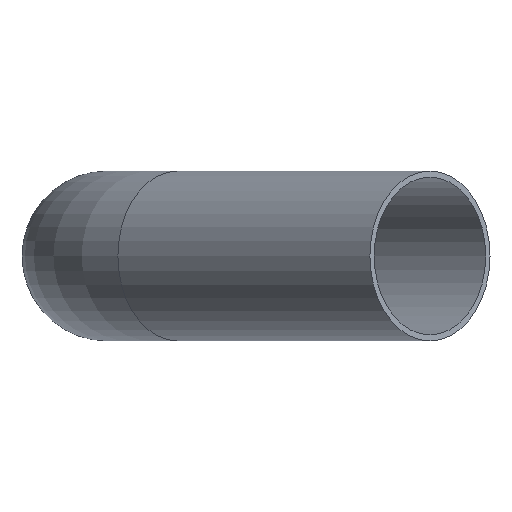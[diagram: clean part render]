
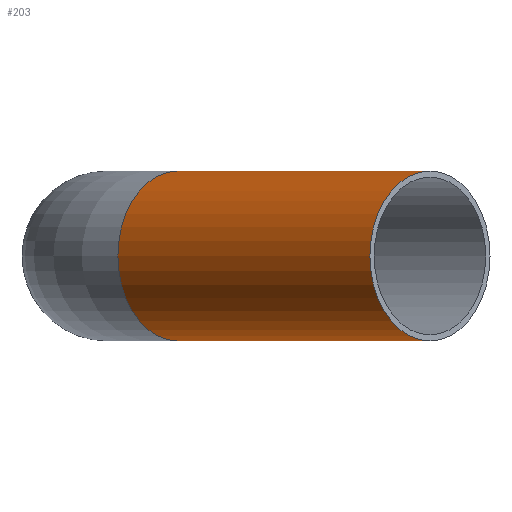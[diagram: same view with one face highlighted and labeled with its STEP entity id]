
A CAD part, left-side view. The second image highlights one B-rep face of the part: STEP entity #203.
In plain terms, the highlighted cylindrical face has radius 21 mm (diameter 42 mm), a full revolution.
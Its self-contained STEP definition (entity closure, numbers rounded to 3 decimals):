
#172=CARTESIAN_POINT('',(-57.276,57.276,0.));
#173=VERTEX_POINT('',#172);
#174=CARTESIAN_POINT('',(-42.426,42.426,0.0));
#175=DIRECTION('',(-0.707,-0.707,0.0));
#176=DIRECTION('',(0.707,-0.707,0.0));
#177=AXIS2_PLACEMENT_3D('',#174,#175,#176);
#178=CIRCLE('',#177,21.);
#179=EDGE_CURVE('',#173,#173,#178,.T.);
#184=CARTESIAN_POINT('',(-104.756,-19.903,0.0));
#185=DIRECTION('',(0.707,0.707,0.0));
#186=DIRECTION('',(0.707,-0.707,0.0));
#187=AXIS2_PLACEMENT_3D('',#184,#185,#186);
#188=CYLINDRICAL_SURFACE('',#187,21.0);
#189=ORIENTED_EDGE('',*,*,#179,.T.);
#190=EDGE_LOOP('',(#189));
#191=FACE_OUTER_BOUND('',#190,.T.);
#192=CARTESIAN_POINT('',(-119.605,-5.054,0.));
#193=VERTEX_POINT('',#192);
#194=CARTESIAN_POINT('',(-104.756,-19.903,0.0));
#195=DIRECTION('',(-0.707,-0.707,0.0));
#196=DIRECTION('',(0.707,-0.707,0.0));
#197=AXIS2_PLACEMENT_3D('',#194,#195,#196);
#198=CIRCLE('',#197,21.0);
#199=EDGE_CURVE('',#193,#193,#198,.T.);
#200=ORIENTED_EDGE('',*,*,#199,.F.);
#201=EDGE_LOOP('',(#200));
#202=FACE_BOUND('',#201,.T.);
#203=ADVANCED_FACE('',(#191,#202),#188,.T.);
